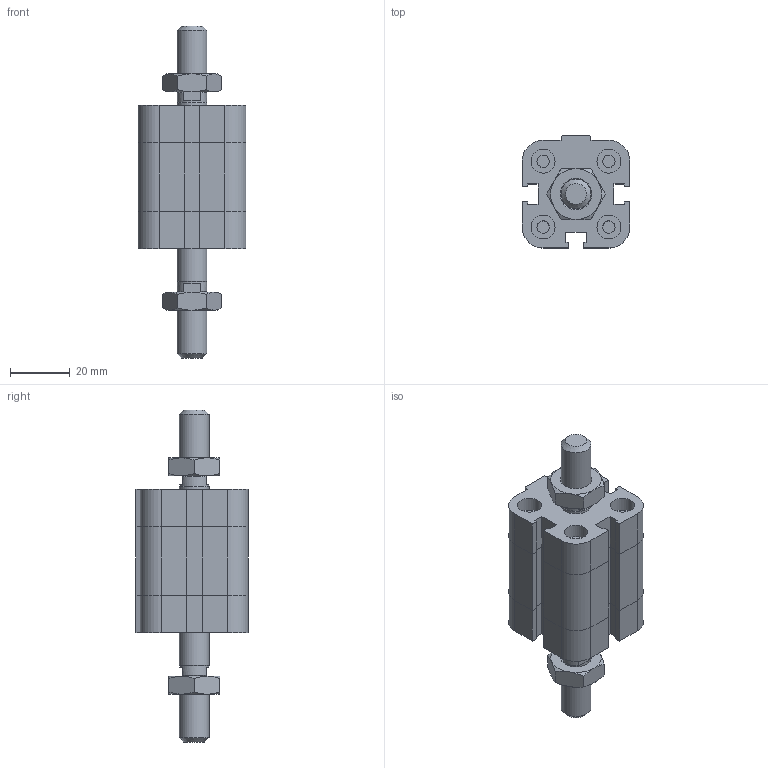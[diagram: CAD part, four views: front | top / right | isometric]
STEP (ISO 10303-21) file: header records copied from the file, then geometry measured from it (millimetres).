
FILE_DESCRIPTION((''),'2;1');
FILE_NAME('I:\Area Tecnica\Disegni\VARIE-3D\Componenti\EUROPE\15##_###_####_04_#\1581_20_0010_04_1.iam.stp','2009-04-20T14:49:44',(''),(''),'Autodesk Inventor 2009','Autodesk Inventor 2009','');
FILE_SCHEMA(('AUTOMOTIVE_DESIGN { 1 0 10303 214 1 1 1 1 }'));
Length unit declared in the file: millimetre
Products named in the file (4): 1581_20_0010_04_1; 1581_20_0010_03_1_C; 1561_20_0010_04_1_S; DBFM10
Assembly tree (4 placements, depth 2):
  1581_20_0010_04_1
    1581_20_0010_03_1_C
    1561_20_0010_04_1_S
    DBFM10  x2
Bounding box: 36 x 37.5 x 111 mm (x, y, z)
Volume: 59372.9 mm3; surface area: 20134.8 mm2
Topology: 4 solids, 4 shells, 222 faces, 483 edges, 289 vertices
Faces by surface type: plane 129, cone 35, bspline 33, cylinder 25
Full cylindrical faces by diameter (mm): 4.134 x4, 7.9 x1, 8 x4, 9.8 x2, 10 x2
Entity records: 5450 total; most frequent: CARTESIAN_POINT 1222, DIRECTION 802, ORIENTED_EDGE 772, EDGE_CURVE 386, AXIS2_PLACEMENT_3D 272, EDGE_LOOP 258, VECTOR 258, LINE 258
